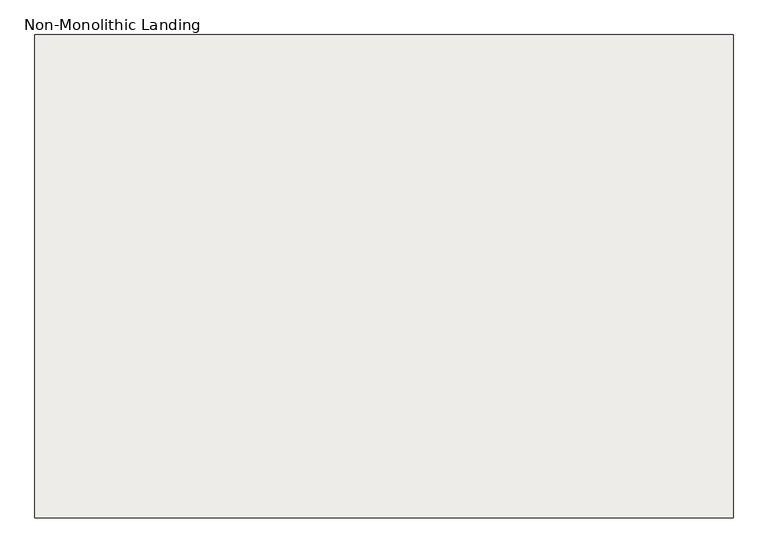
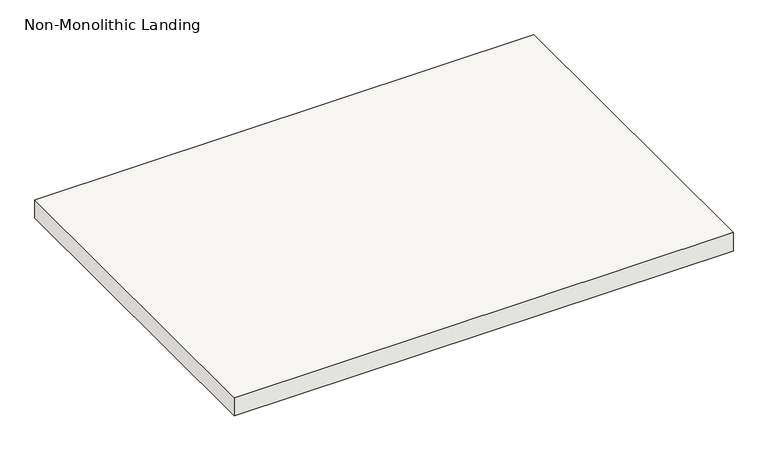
"""IFC4 building model written with IfcOpenShell, lengths in millimetres: slab geometry, Non-Monolithic Landing."""

import ifcopenshell
import ifcopenshell.guid

model = None  # the IFC model being written
_history = None  # IfcOwnerHistory: only IFC2X3 demands one
_inside = {}  # id of a spatial element -> (the spatial element, [elements in it])
_under = {}  # id of a project, library or spatial element -> (it, [spatial elements below it])
_declared = {}  # id of a project -> (the project, [libraries it declares])
_typed = {}  # id of a type object -> (the type object, [elements of that type])
_made_of = {}  # id of a material, layer set ... -> (it, [elements and type objects made of it])


def new_model(schema):
    """Start an empty IFC model of exactly this schema.

    Asked for "IFC4X3", IfcOpenShell would pick the latest addendum, in which some entities
    have other attributes; the version numbers below select the first issue.
    IFC2X3 requires an IfcOwnerHistory on every rooted entity: one is made here for all.
    """
    global model, _history
    if schema == "IFC4X3":
        model = ifcopenshell.file(schema_version=(4, 3, 0, 0))
    else:
        model = ifcopenshell.file(schema=schema)
    _inside.clear()
    _under.clear()
    _declared.clear()
    _typed.clear()
    _made_of.clear()
    _history = None
    if model.schema == "IFC2X3":
        org = make("IfcOrganization", Name="unknown")
        user = make(
            "IfcPersonAndOrganization",
            ThePerson=make("IfcPerson", FamilyName="unknown"),
            TheOrganization=org,
        )
        app = make(
            "IfcApplication",
            ApplicationDeveloper=org,
            Version="unknown",
            ApplicationFullName="unknown",
            ApplicationIdentifier="unknown",
        )
        _history = make(
            "IfcOwnerHistory",
            OwningUser=user,
            OwningApplication=app,
            ChangeAction="ADDED",
            CreationDate=0,
        )
    return model


def make(cls, **values):
    """One entity of the class cls with the attributes given. An attribute that is None is left unset."""
    return model.create_entity(
        cls, **{name: value for name, value in values.items() if value is not None}
    )


def rooted(cls, **values):
    """An entity with a GlobalId (a new one), such as an element, a storey or a relation."""
    return make(cls, GlobalId=ifcopenshell.guid.new(), OwnerHistory=_history, **values)


def si_unit(unit_type, name, prefix=None):
    """IfcSIUnit, for example si_unit("LENGTHUNIT", "METRE", prefix="MILLI")."""
    return make("IfcSIUnit", UnitType=unit_type, Prefix=prefix, Name=name)


def assignment(units):
    """IfcUnitAssignment: the units of a project."""
    return None if units is None else make("IfcUnitAssignment", Units=units)


def point(xyz):
    """IfcCartesianPoint."""
    return None if xyz is None else make("IfcCartesianPoint", Coordinates=xyz)


def direction(xyz):
    """IfcDirection."""
    return None if xyz is None else make("IfcDirection", DirectionRatios=xyz)


def frame(location, z_axis=None, x_axis=None):
    """IfcAxis2Placement3D, a coordinate frame: its origin and axes. An axis left out is left unset."""
    return make(
        "IfcAxis2Placement3D",
        Location=point(location),
        Axis=direction(z_axis),
        RefDirection=direction(x_axis),
    )


def origin():
    """The frame at (0, 0, 0) with its axes left unset."""
    return frame((0.0, 0.0, 0.0))


def place(relative_to, where):
    """IfcLocalPlacement: puts the frame where relative to a parent placement (None: the world)."""
    return make(
        "IfcLocalPlacement", PlacementRelTo=relative_to, RelativePlacement=where
    )


def context(
    kind, dimensions, precision=None, world=None, true_north=None, identifier=None
):
    """IfcGeometricRepresentationContext, for example the 3D "Model" context."""
    return make(
        "IfcGeometricRepresentationContext",
        ContextIdentifier=identifier,
        ContextType=kind,
        CoordinateSpaceDimension=dimensions,
        Precision=precision,
        WorldCoordinateSystem=world,
        TrueNorth=true_north,
    )


def project(units=None, contexts=None):
    """IfcProject with its units and contexts."""
    return rooted(
        "IfcProject",
        Name="project",
        RepresentationContexts=contexts,
        UnitsInContext=assignment(units),
    )


def spatial(cls, under=None, at=None, **own):
    """A site, building, storey or space (cls), placed at a placement, below another one or the project."""
    s = rooted(cls, ObjectPlacement=at, **own)
    if under is not None:
        _under.setdefault(under.id(), (under, []))[1].append(s)
    return s


def polyline(points):
    """IfcPolyline through the points."""
    return make("IfcPolyline", Points=[point(p) for p in points])


def outline(outer, holes=None, kind="AREA"):
    """IfcArbitraryClosedProfileDef: a profile drawn as a closed curve; with holes, ...WithVoids."""
    if holes is None:
        return make("IfcArbitraryClosedProfileDef", ProfileType=kind, OuterCurve=outer)
    return make(
        "IfcArbitraryProfileDefWithVoids",
        ProfileType=kind,
        OuterCurve=outer,
        InnerCurves=holes,
    )


def extrude(swept, where, along, depth):
    """IfcExtrudedAreaSolid: the profile swept, set in the frame where, extruded along a direction by depth."""
    return make(
        "IfcExtrudedAreaSolid",
        SweptArea=swept,
        Position=where,
        ExtrudedDirection=direction(along),
        Depth=depth,
    )


def shape(context_of_items, identifier, shape_type, items):
    """IfcShapeRepresentation: the items that make up one representation, for example the "Body"."""
    return make(
        "IfcShapeRepresentation",
        ContextOfItems=context_of_items,
        RepresentationIdentifier=identifier,
        RepresentationType=shape_type,
        Items=items,
    )


def source(mapping_origin, context_of_items, identifier, shape_type, items):
    """IfcRepresentationMap: a shape defined once, which mapped items show again and again."""
    return make(
        "IfcRepresentationMap",
        MappingOrigin=mapping_origin,
        MappedRepresentation=shape(context_of_items, identifier, shape_type, items),
    )


def transform(
    local_origin,
    x_axis=None,
    y_axis=None,
    z_axis=None,
    scale=None,
    scale2=None,
    scale3=None,
    uniform=True,
):
    """IfcCartesianTransformationOperator3D, or its non-uniform kind. x_axis, y_axis, z_axis: its Axis1, 2, 3."""
    if uniform:
        return make(
            "IfcCartesianTransformationOperator3D",
            Axis1=direction(x_axis),
            Axis2=direction(y_axis),
            LocalOrigin=point(local_origin),
            Scale=scale,
            Axis3=direction(z_axis),
        )
    return make(
        "IfcCartesianTransformationOperator3DnonUniform",
        Axis1=direction(x_axis),
        Axis2=direction(y_axis),
        LocalOrigin=point(local_origin),
        Scale=scale,
        Axis3=direction(z_axis),
        Scale2=scale2,
        Scale3=scale3,
    )


def mapped(mapping_source, mapping_target):
    """IfcMappedItem: shows the shape of a source again, moved by a transform."""
    return make(
        "IfcMappedItem", MappingSource=mapping_source, MappingTarget=mapping_target
    )


def made_of(thing, what):
    """Note that an element or type object is made of a material, layer set ...; save() writes the relation."""
    if what is not None:
        _made_of.setdefault(what.id(), (what, []))[1].append(thing)
    return thing


def element(
    cls,
    number,
    at=None,
    inside=None,
    cuts=None,
    type_object=None,
    material=None,
    context=None,
    identifier="Body",
    shape_type=None,
    held_by="IfcProductDefinitionShape",
    body=None,
    shapes=None,
    **own,
):
    """One element of the class cls, such as IfcWall. Its Tag is "e" and its number.

    at: its placement. inside: the storey or other place that contains it. cuts: it is an
    opening in that element (IfcRelVoidsElement). A single representation is given by context,
    identifier, shape_type and body (its items); several are given by shapes. held_by: the class
    of the entity that holds the representations. save() writes the other relations.
    """
    e = rooted(cls, Tag="e%d" % number, ObjectPlacement=at, **own)
    if body is not None:
        shapes = [shape(context, identifier, shape_type, body)]
    if shapes is not None:
        e.Representation = make(held_by, Representations=shapes)
    if inside is not None:
        _inside.setdefault(inside.id(), (inside, []))[1].append(e)
    if cuts is not None:
        rooted(
            "IfcRelVoidsElement", RelatingBuildingElement=cuts, RelatedOpeningElement=e
        )
    if type_object is not None:
        _typed.setdefault(type_object.id(), (type_object, []))[1].append(e)
    return made_of(e, material)


def aggregate(whole, parts):
    """IfcRelAggregates: a whole, such as a stair, and the parts it consists of."""
    return rooted("IfcRelAggregates", RelatingObject=whole, RelatedObjects=parts)


def save(model, path):
    """Write the relations noted so far, then the file.

    IfcRelAggregates (storeys below a building ...), IfcRelContainedInSpatialStructure (elements
    in a storey), IfcRelDefinesByType, IfcRelAssociatesMaterial and IfcRelDeclares: one each for
    every whole, place, type object, material and project.
    """
    for whole, parts in _under.values():
        aggregate(whole, parts)
    for where, things in _inside.values():
        rooted(
            "IfcRelContainedInSpatialStructure",
            RelatedElements=things,
            RelatingStructure=where,
        )
    for kind, things in _typed.values():
        rooted("IfcRelDefinesByType", RelatedObjects=things, RelatingType=kind)
    for what, things in _made_of.values():
        rooted("IfcRelAssociatesMaterial", RelatedObjects=things, RelatingMaterial=what)
    for by, libraries in _declared.values():
        rooted("IfcRelDeclares", RelatingContext=by, RelatedDefinitions=libraries)
    model.write(path)


def non_monolithic_landing_6fb80745(model_context):
    return source(origin(), model_context, "Body", "SweptSolid", [
        extrude(outline(polyline([(112406.2736551, -17945.4846057), (113727.0736551, -17945.4846057), (113727.0736551, -18859.8846057), (112406.2736551, -18859.8846057), (112406.2736551, -17945.4846057)])), frame((0.0, 0.0, 2126.3428571), z_axis=(0.0, 0.0, 1.0), x_axis=(1.0, 0.0, 0.0)), (0.0, 0.0, 1.0), 50.8),
    ])


if __name__ == "__main__":
    model = new_model("IFC4")
    model_context = context("Model", 3, world=origin())
    ifc_project = project(units=[si_unit("LENGTHUNIT", "METRE", prefix="MILLI")], contexts=[model_context])
    site = spatial("IfcSite", under=ifc_project)
    building = spatial("IfcBuilding", under=site)
    placement = place(None, origin())
    non_monolithic_landing_shape = non_monolithic_landing_6fb80745(model_context)
    element("IfcSlab", 1, ObjectType="Non-Monolithic Landing", at=placement, inside=building, context=model_context, shape_type="MappedRepresentation", body=[
        mapped(non_monolithic_landing_shape, transform((0.0, 0.0, 0.0), x_axis=(1.0, 0.0, 0.0), y_axis=(0.0, 1.0, 0.0), z_axis=(0.0, 0.0, 1.0))),
    ])
    save(model, "model.ifc")
